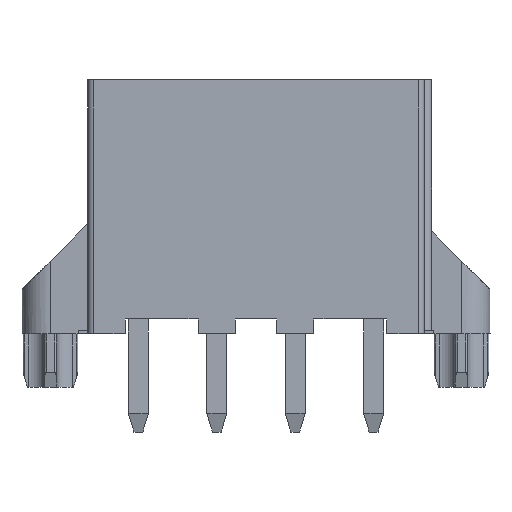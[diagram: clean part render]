
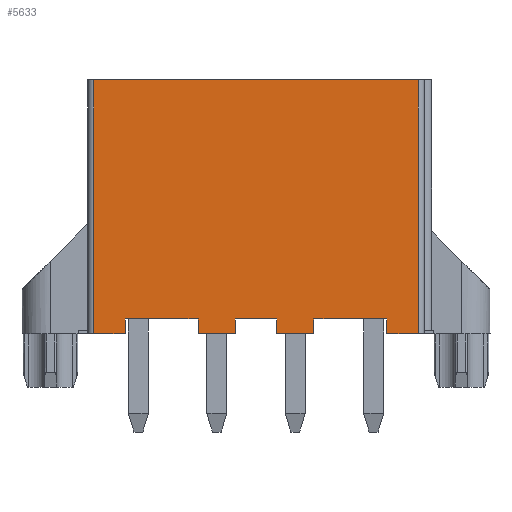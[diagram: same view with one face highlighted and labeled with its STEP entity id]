
A CAD part, front view. The second image highlights one B-rep face of the part: STEP entity #5633.
In plain terms, the highlighted planar face has unit normal (0, -1, 0).
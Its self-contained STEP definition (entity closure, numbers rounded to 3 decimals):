
#19=DIRECTION('',(1.,0.,0.));
#20=VECTOR('',#19,17.4);
#21=CARTESIAN_POINT('',(-8.7,-4.8,6.8));
#22=LINE('',#21,#20);
#939=DIRECTION('',(1.,0.,0.));
#940=VECTOR('',#939,2.);
#941=CARTESIAN_POINT('',(1.1,-4.8,-6.8));
#942=LINE('',#941,#940);
#963=DIRECTION('',(1.,0.,0.));
#964=VECTOR('',#963,2.);
#965=CARTESIAN_POINT('',(-3.1,-4.8,-6.8));
#966=LINE('',#965,#964);
#987=DIRECTION('',(1.,0.,0.));
#988=VECTOR('',#987,1.7);
#989=CARTESIAN_POINT('',(7.,-4.8,-6.8));
#990=LINE('',#989,#988);
#1030=DIRECTION('',(1.,0.,0.));
#1031=VECTOR('',#1030,1.7);
#1032=CARTESIAN_POINT('',(-8.7,-4.8,-6.8));
#1033=LINE('',#1032,#1031);
#1051=DIRECTION('',(0.,0.,1.));
#1052=VECTOR('',#1051,0.8);
#1053=CARTESIAN_POINT('',(3.1,-4.8,-6.8));
#1054=LINE('',#1053,#1052);
#1055=DIRECTION('',(0.,0.,1.));
#1056=VECTOR('',#1055,0.8);
#1057=CARTESIAN_POINT('',(1.1,-4.8,-6.8));
#1058=LINE('',#1057,#1056);
#1059=DIRECTION('',(1.,0.,0.));
#1060=VECTOR('',#1059,2.2);
#1061=CARTESIAN_POINT('',(-1.1,-4.8,-6.));
#1062=LINE('',#1061,#1060);
#1063=DIRECTION('',(0.,0.,1.));
#1064=VECTOR('',#1063,0.8);
#1065=CARTESIAN_POINT('',(-1.1,-4.8,-6.8));
#1066=LINE('',#1065,#1064);
#1067=DIRECTION('',(0.,0.,1.));
#1068=VECTOR('',#1067,0.8);
#1069=CARTESIAN_POINT('',(-3.1,-4.8,-6.8));
#1070=LINE('',#1069,#1068);
#1071=DIRECTION('',(0.,0.,1.));
#1072=VECTOR('',#1071,0.8);
#1073=CARTESIAN_POINT('',(-7.,-4.8,-6.8));
#1074=LINE('',#1073,#1072);
#1075=DIRECTION('',(0.,0.,-1.));
#1076=VECTOR('',#1075,13.6);
#1077=CARTESIAN_POINT('',(-8.7,-4.8,6.8));
#1078=LINE('',#1077,#1076);
#1079=DIRECTION('',(0.,0.,1.));
#1080=VECTOR('',#1079,0.8);
#1081=CARTESIAN_POINT('',(7.,-4.8,-6.8));
#1082=LINE('',#1081,#1080);
#1107=DIRECTION('',(1.,0.,0.));
#1108=VECTOR('',#1107,3.9);
#1109=CARTESIAN_POINT('',(-7.,-4.8,-6.));
#1110=LINE('',#1109,#1108);
#1127=DIRECTION('',(1.,0.,0.));
#1128=VECTOR('',#1127,3.9);
#1129=CARTESIAN_POINT('',(3.1,-4.8,-6.));
#1130=LINE('',#1129,#1128);
#2919=DIRECTION('',(0.,0.,-1.));
#2920=VECTOR('',#2919,13.6);
#2921=CARTESIAN_POINT('',(8.7,-4.8,6.8));
#2922=LINE('',#2921,#2920);
#3497=CARTESIAN_POINT('',(-8.7,-4.8,6.8));
#3498=VERTEX_POINT('',#3497);
#3499=CARTESIAN_POINT('',(8.7,-4.8,6.8));
#3500=VERTEX_POINT('',#3499);
#3512=CARTESIAN_POINT('',(-8.7,-4.8,-6.8));
#3514=VERTEX_POINT('',#3512);
#3515=CARTESIAN_POINT('',(8.7,-4.8,-6.8));
#3517=VERTEX_POINT('',#3515);
#3599=CARTESIAN_POINT('',(7.,-4.8,-6.8));
#3601=VERTEX_POINT('',#3599);
#3607=CARTESIAN_POINT('',(7.,-4.8,-6.));
#3608=VERTEX_POINT('',#3607);
#3849=CARTESIAN_POINT('',(3.1,-4.8,-6.8));
#3851=VERTEX_POINT('',#3849);
#3857=CARTESIAN_POINT('',(3.1,-4.8,-6.));
#3858=VERTEX_POINT('',#3857);
#3865=CARTESIAN_POINT('',(-7.,-4.8,-6.8));
#3867=VERTEX_POINT('',#3865);
#3873=CARTESIAN_POINT('',(-7.,-4.8,-6.));
#3874=VERTEX_POINT('',#3873);
#4129=CARTESIAN_POINT('',(-1.1,-4.8,-6.8));
#4131=VERTEX_POINT('',#4129);
#4137=CARTESIAN_POINT('',(1.1,-4.8,-6.8));
#4139=VERTEX_POINT('',#4137);
#4145=CARTESIAN_POINT('',(-1.1,-4.8,-6.));
#4146=VERTEX_POINT('',#4145);
#4147=CARTESIAN_POINT('',(1.1,-4.8,-6.));
#4148=VERTEX_POINT('',#4147);
#4161=CARTESIAN_POINT('',(-3.1,-4.8,-6.8));
#4163=VERTEX_POINT('',#4161);
#4169=CARTESIAN_POINT('',(-3.1,-4.8,-6.));
#4170=VERTEX_POINT('',#4169);
#5600=CARTESIAN_POINT('',(-8.7,-4.8,6.8));
#5601=DIRECTION('',(0.,-1.,0.));
#5602=DIRECTION('',(1.,0.,0.));
#5603=AXIS2_PLACEMENT_3D('',#5600,#5601,#5602);
#5604=PLANE('',#5603);
#5606=ORIENTED_EDGE('',*,*,#5605,.F.);
#5608=ORIENTED_EDGE('',*,*,#5607,.F.);
#5609=ORIENTED_EDGE('',*,*,#5480,.F.);
#5610=ORIENTED_EDGE('',*,*,#5454,.T.);
#5612=ORIENTED_EDGE('',*,*,#5611,.F.);
#5614=ORIENTED_EDGE('',*,*,#5613,.F.);
#5615=ORIENTED_EDGE('',*,*,#5510,.F.);
#5617=ORIENTED_EDGE('',*,*,#5616,.T.);
#5619=ORIENTED_EDGE('',*,*,#5618,.F.);
#5621=ORIENTED_EDGE('',*,*,#5620,.F.);
#5622=ORIENTED_EDGE('',*,*,#5579,.F.);
#5624=ORIENTED_EDGE('',*,*,#5623,.F.);
#5625=ORIENTED_EDGE('',*,*,#4550,.T.);
#5627=ORIENTED_EDGE('',*,*,#5626,.T.);
#5628=ORIENTED_EDGE('',*,*,#5541,.F.);
#5630=ORIENTED_EDGE('',*,*,#5629,.T.);
#5631=EDGE_LOOP('',(#5606,#5608,#5609,#5610,#5612,#5614,#5615,#5617,#5619,#5621,
#5622,#5624,#5625,#5627,#5628,#5630));
#5632=FACE_OUTER_BOUND('',#5631,.F.);
#5633=ADVANCED_FACE('',(#5632),#5604,.T.);
#4550=EDGE_CURVE('',#3498,#3500,#22,.T.);
#5454=EDGE_CURVE('',#4139,#4148,#1058,.T.);
#5480=EDGE_CURVE('',#4139,#3851,#942,.T.);
#5510=EDGE_CURVE('',#4163,#4131,#966,.T.);
#5541=EDGE_CURVE('',#3601,#3517,#990,.T.);
#5579=EDGE_CURVE('',#3514,#3867,#1033,.T.);
#5605=EDGE_CURVE('',#3858,#3608,#1130,.T.);
#5607=EDGE_CURVE('',#3851,#3858,#1054,.T.);
#5611=EDGE_CURVE('',#4146,#4148,#1062,.T.);
#5613=EDGE_CURVE('',#4131,#4146,#1066,.T.);
#5616=EDGE_CURVE('',#4163,#4170,#1070,.T.);
#5618=EDGE_CURVE('',#3874,#4170,#1110,.T.);
#5620=EDGE_CURVE('',#3867,#3874,#1074,.T.);
#5623=EDGE_CURVE('',#3498,#3514,#1078,.T.);
#5626=EDGE_CURVE('',#3500,#3517,#2922,.T.);
#5629=EDGE_CURVE('',#3601,#3608,#1082,.T.);
